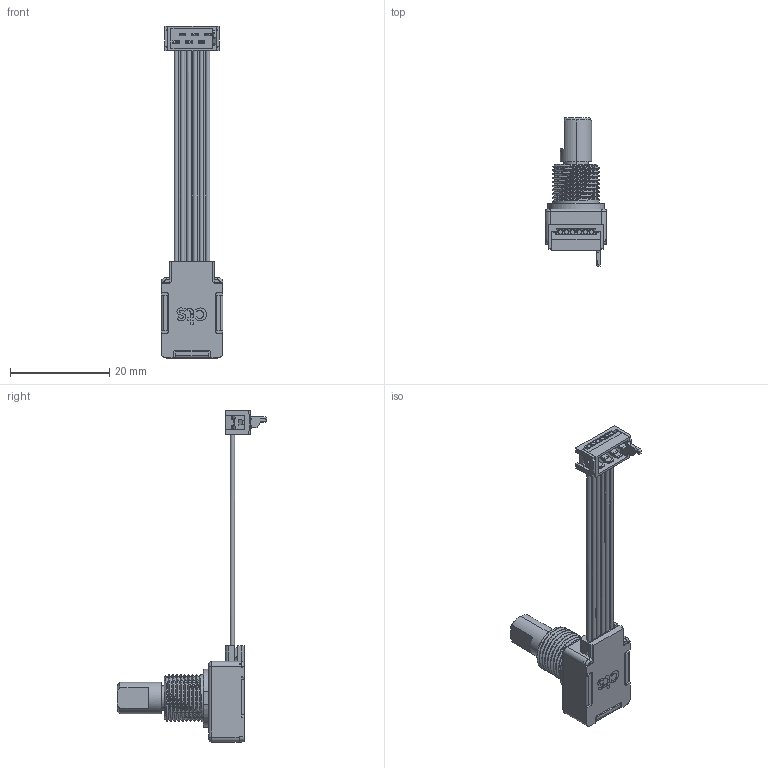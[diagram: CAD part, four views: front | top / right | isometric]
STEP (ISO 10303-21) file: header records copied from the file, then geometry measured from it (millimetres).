
FILE_DESCRIPTION(('Creo Elements/Direct Modeling STEP Export'),'2;1');
FILE_NAME('291AS0001.stp','2013-04-08T 0:15:41',(''),(''),'Creo Elements/Direct Modeling STEP processor for AP214 (Solid Model)','Creo Elements/Direct Modeling 18.1C 24-Feb-2013 (C) Parametric Technology GmbH','');
FILE_SCHEMA(('AUTOMOTIVE_DESIGN { 1 0 10303 214 1 1 1 1 }'));
Length unit declared in the file: millimetre
Products named in the file (2): 291AS0001.prt; 291AS0001.stp
Assembly tree (1 placements, depth 2):
  291AS0001.stp
    291AS0001.prt
Bounding box: 12.4 x 30.19 x 67.07 mm (x, y, z)
Volume: 2711.9 mm3; surface area: 3277 mm2
Topology: 1 solids, 16 shells, 976 faces, 2822 edges, 1838 vertices
Faces by surface type: plane 637, cylinder 267, extrusion 24, bspline 20, torus 18, cone 10
Entity records: 43499 total; most frequent: CARTESIAN_POINT 9884, ORIENTED_EDGE 5644, DIRECTION 4917, EDGE_CURVE 2822, VECTOR 2019, LINE 1995, VERTEX_POINT 1838, AXIS2_PLACEMENT_3D 1449
